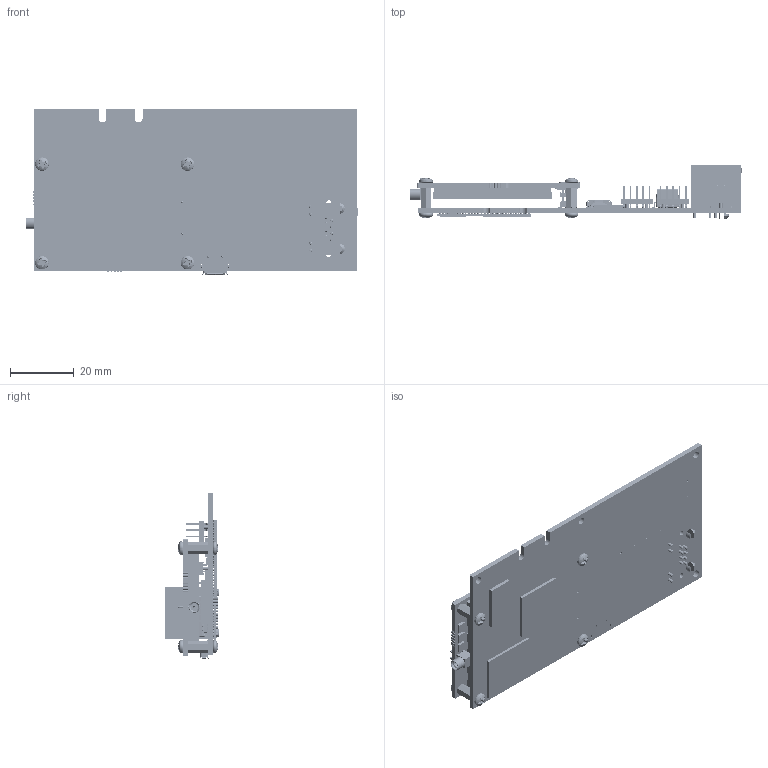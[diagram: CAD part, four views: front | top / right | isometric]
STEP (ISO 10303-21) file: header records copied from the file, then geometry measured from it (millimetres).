
FILE_DESCRIPTION (( 'STEP AP214' ), '1' );
FILE_NAME ('Z9-PC-SR001.STEP', '2018-09-29T13:57:18', ( '' ), ( '' ), 'SwSTEP 2.0', 'SolidWorks 2016', '' );
FILE_SCHEMA (( 'AUTOMOTIVE_DESIGN' ));
Length unit declared in the file: inch
Products named in the file (80): 0402_ECA0180FC; 0402_ERE2001FP; J2-J3; MST0130SC; 0402_ECA0120FC; 0402_ERE1001FP; TMM-pin; Thor-A_emn_Z9-T; 0402_ECA0220FC; 0402_ERE1004FP; J2-J3_TMM-105-06-G-D-SM-A_body; epc0091xa81315n top; 0402_ECA0105XV; 0402_ERE0000FP; J1; AB07_EXT3276SZ; 0603_ECA0106SX; 0402_ERE2002FP; _CLT_alignment_pins; FA238_EXT0024CS; 0402_ECA0104FX; 0402_ERE475RFP; _C-0702_pins; XTAL_ABM3C_EXT1474AA; 0402_ECA0104LS; 0402_ERE1002FP; _CLT-107-02-G-D-TR_socket; QFN14HS_EIC6302PS; 0402_ECA0103FX; 0402_ERE0330FP; J9; SOTFL50P160X606N_EIC1020SS; epc0091xa81315n bottom_Z9-T; MST0206SFMM2_MST0206SFMM2; HSO0204FF_91115A806; SOP65P640X11016N_EIC1674SS; LLR0080SP; MTH093X180_MTH093X180; HSC0203LP_Lime; SO8_3_94_EIC2432SE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
Assembly tree (234 placements, depth 5):
  MST0206SFMM2_MST0206SFMM2
  MTH093X180_MTH093X180
  XROUNDTOP_LARGE_XROUNDTOP1_6
  MTH030_TP30
  TPSMD030_TPSMD030
Bounding box: 104.29 x 16.74 x 52.08 mm (x, y, z)
Volume: 16453.8 mm3; surface area: 33132.2 mm2
Topology: 404 solids, 404 shells, 7690 faces, 17879 edges, 11721 vertices
Faces by surface type: plane 4709, cylinder 2585, cone 223, bspline 82, torus 59, sphere 32
Entity records: 169741 total; most frequent: CARTESIAN_POINT 33975, DIRECTION 26434, ORIENTED_EDGE 23820, EDGE_CURVE 11910, AXIS2_PLACEMENT_3D 9499, VERTEX_POINT 7916, LINE 7436, VECTOR 7436
